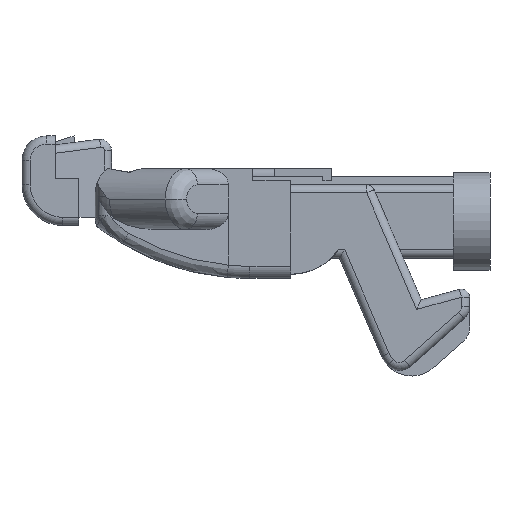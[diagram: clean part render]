
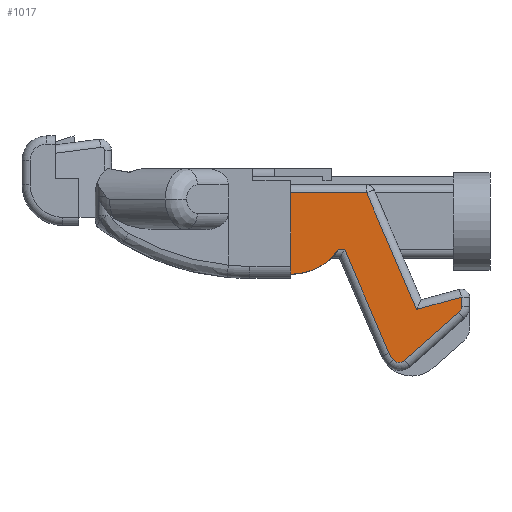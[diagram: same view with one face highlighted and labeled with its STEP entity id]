
A CAD part, left-side view. The second image highlights one B-rep face of the part: STEP entity #1017.
In plain terms, the highlighted planar face has unit normal (-1, 0, 0).
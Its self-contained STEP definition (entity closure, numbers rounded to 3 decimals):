
#71 = DIRECTION ( 'NONE',  ( 0., 0., 1. ) ) ;
#301 = ORIENTED_EDGE ( 'NONE', *, *, #4029, .F. ) ;
#390 = ORIENTED_EDGE ( 'NONE', *, *, #5676, .T. ) ;
#653 = CARTESIAN_POINT ( 'NONE',  ( -12.531, 12.398, -16.183 ) ) ;
#717 = EDGE_LOOP ( 'NONE', ( #4122, #5623, #2382, #1129, #4386, #2226, #4890, #390, #5519, #3901, #1470, #301 ) ) ;
#723 = CARTESIAN_POINT ( 'NONE',  ( -12.531, 24.5, -4.5 ) ) ;
#860 = CARTESIAN_POINT ( 'NONE',  ( -12.531, 3.835, -11.172 ) ) ;
#1001 = CARTESIAN_POINT ( 'NONE',  ( -12.531, 3.5, -10.425 ) ) ;
#1017 = ADVANCED_FACE ( 'NONE', ( #3466 ), #2610, .F. ) ;
#1021 = CARTESIAN_POINT ( 'NONE',  ( -12.531, 24.5, -4.5 ) ) ;
#1066 = EDGE_CURVE ( 'NONE', #5018, #4699, #1535, .T. ) ;
#1129 = ORIENTED_EDGE ( 'NONE', *, *, #1066, .T. ) ;
#1151 = LINE ( 'NONE', #5747, #2962 ) ;
#1216 = CARTESIAN_POINT ( 'NONE',  ( -12.531, 9.641, -15. ) ) ;
#1283 = DIRECTION ( 'NONE',  ( 0., 0.394, 0.919 ) ) ;
#1325 = CARTESIAN_POINT ( 'NONE',  ( -12.531, 17.841, -3.5 ) ) ;
#1348 = EDGE_CURVE ( 'NONE', #4072, #3820, #3921, .T. ) ;
#1470 = ORIENTED_EDGE ( 'NONE', *, *, #5875, .T. ) ;
#1519 = VERTEX_POINT ( 'NONE', #1325 ) ;
#1535 = CIRCLE ( 'NONE', #2309, 3. ) ;
#1585 = LINE ( 'NONE', #5842, #3034 ) ;
#1591 = VECTOR ( 'NONE', #3612, 1000. ) ;
#1626 = VECTOR ( 'NONE', #3030, 1000. ) ;
#1729 = CARTESIAN_POINT ( 'NONE',  ( -12.531, 15.159, 3.5 ) ) ;
#1822 = VERTEX_POINT ( 'NONE', #3750 ) ;
#2005 = EDGE_CURVE ( 'NONE', #4181, #4062, #3737, .T. ) ;
#2034 = DIRECTION ( 'NONE',  ( -1., 0., 0. ) ) ;
#2079 = CARTESIAN_POINT ( 'NONE',  ( -12.531, 3.5, -9.309 ) ) ;
#2115 = DIRECTION ( 'NONE',  ( -1., 0., 0. ) ) ;
#2226 = ORIENTED_EDGE ( 'NONE', *, *, #3554, .T. ) ;
#2309 = AXIS2_PLACEMENT_3D ( 'NONE', #1216, #2034, #3441 ) ;
#2382 = ORIENTED_EDGE ( 'NONE', *, *, #4032, .T. ) ;
#2487 = AXIS2_PLACEMENT_3D ( 'NONE', #723, #3527, #5312 ) ;
#2565 = CIRCLE ( 'NONE', #4217, 1. ) ;
#2610 = PLANE ( 'NONE',  #2487 ) ;
#2643 = AXIS2_PLACEMENT_3D ( 'NONE', #3084, #4040, #4090 ) ;
#2666 = LINE ( 'NONE', #4528, #1591 ) ;
#2777 = CARTESIAN_POINT ( 'NONE',  ( -12.531, 12.398, -16.183 ) ) ;
#2815 = CARTESIAN_POINT ( 'NONE',  ( -12.531, 9.018, -10.81 ) ) ;
#2906 = LINE ( 'NONE', #1021, #5562 ) ;
#2937 = VECTOR ( 'NONE', #4279, 1000. ) ;
#2962 = VECTOR ( 'NONE', #3899, 1000. ) ;
#3016 = CARTESIAN_POINT ( 'NONE',  ( -12.531, 11.883, -16.994 ) ) ;
#3030 = DIRECTION ( 'NONE',  ( 0., 0.965, -0.263 ) ) ;
#3034 = VECTOR ( 'NONE', #4021, 1000. ) ;
#3084 = CARTESIAN_POINT ( 'NONE',  ( -12.531, 11.136, -16.329 ) ) ;
#3145 = AXIS2_PLACEMENT_3D ( 'NONE', #4069, #5425, #4461 ) ;
#3164 = LINE ( 'NONE', #3536, #4683 ) ;
#3441 = DIRECTION ( 'NONE',  ( 0., 0., -1. ) ) ;
#3466 = FACE_OUTER_BOUND ( 'NONE', #717, .T. ) ;
#3527 = DIRECTION ( 'NONE',  ( 1., 0., 0. ) ) ;
#3536 = CARTESIAN_POINT ( 'NONE',  ( -12.531, 15.419, 4.106 ) ) ;
#3554 = EDGE_CURVE ( 'NONE', #1822, #3806, #1585, .T. ) ;
#3612 = DIRECTION ( 'NONE',  ( 0., 0., 1. ) ) ;
#3737 = CIRCLE ( 'NONE', #3145, 7.25 ) ;
#3750 = CARTESIAN_POINT ( 'NONE',  ( -12.531, 10.471, -17.077 ) ) ;
#3793 = EDGE_CURVE ( 'NONE', #4699, #1822, #4399, .T. ) ;
#3806 = VERTEX_POINT ( 'NONE', #860 ) ;
#3820 = VERTEX_POINT ( 'NONE', #2815 ) ;
#3824 = DIRECTION ( 'NONE',  ( 0., -1., 0. ) ) ;
#3899 = DIRECTION ( 'NONE',  ( 0., 1., 0. ) ) ;
#3901 = ORIENTED_EDGE ( 'NONE', *, *, #4868, .T. ) ;
#3921 = LINE ( 'NONE', #5275, #1626 ) ;
#3943 = CARTESIAN_POINT ( 'NONE',  ( -12.531, 18.626, -3.5 ) ) ;
#3997 = EDGE_CURVE ( 'NONE', #4062, #1519, #4816, .T. ) ;
#4021 = DIRECTION ( 'NONE',  ( 0., -0.747, 0.665 ) ) ;
#4029 = EDGE_CURVE ( 'NONE', #4181, #4670, #2906, .T. ) ;
#4032 = EDGE_CURVE ( 'NONE', #1519, #5018, #4787, .T. ) ;
#4040 = DIRECTION ( 'NONE',  ( -1., 0., 0. ) ) ;
#4062 = VERTEX_POINT ( 'NONE', #3943 ) ;
#4069 = CARTESIAN_POINT ( 'NONE',  ( -12.531, 24.5, 0.75 ) ) ;
#4072 = VERTEX_POINT ( 'NONE', #2079 ) ;
#4090 = DIRECTION ( 'NONE',  ( 0., 0., -1. ) ) ;
#4122 = ORIENTED_EDGE ( 'NONE', *, *, #2005, .T. ) ;
#4148 = VERTEX_POINT ( 'NONE', #1729 ) ;
#4181 = VERTEX_POINT ( 'NONE', #4471 ) ;
#4217 = AXIS2_PLACEMENT_3D ( 'NONE', #5776, #2115, #5400 ) ;
#4279 = DIRECTION ( 'NONE',  ( 0., -0.394, -0.919 ) ) ;
#4337 = CARTESIAN_POINT ( 'NONE',  ( -12.531, 18.5, -3.5 ) ) ;
#4386 = ORIENTED_EDGE ( 'NONE', *, *, #3793, .T. ) ;
#4399 = CIRCLE ( 'NONE', #2643, 1. ) ;
#4461 = DIRECTION ( 'NONE',  ( 0., 0., -1. ) ) ;
#4471 = CARTESIAN_POINT ( 'NONE',  ( -12.531, 24.5, -6.5 ) ) ;
#4528 = CARTESIAN_POINT ( 'NONE',  ( -12.531, 3.5, -8. ) ) ;
#4670 = VERTEX_POINT ( 'NONE', #5608 ) ;
#4683 = VECTOR ( 'NONE', #1283, 1000. ) ;
#4699 = VERTEX_POINT ( 'NONE', #3016 ) ;
#4787 = LINE ( 'NONE', #653, #2937 ) ;
#4816 = LINE ( 'NONE', #4337, #5072 ) ;
#4868 = EDGE_CURVE ( 'NONE', #3820, #4148, #3164, .T. ) ;
#4890 = ORIENTED_EDGE ( 'NONE', *, *, #5589, .T. ) ;
#5018 = VERTEX_POINT ( 'NONE', #2777 ) ;
#5072 = VECTOR ( 'NONE', #3824, 1000. ) ;
#5275 = CARTESIAN_POINT ( 'NONE',  ( -12.531, 8.179, -10.582 ) ) ;
#5312 = DIRECTION ( 'NONE',  ( 0., 0., -1. ) ) ;
#5400 = DIRECTION ( 'NONE',  ( 0., 0., -1. ) ) ;
#5425 = DIRECTION ( 'NONE',  ( -1., 0., 0. ) ) ;
#5509 = VERTEX_POINT ( 'NONE', #1001 ) ;
#5519 = ORIENTED_EDGE ( 'NONE', *, *, #1348, .T. ) ;
#5562 = VECTOR ( 'NONE', #71, 1000. ) ;
#5589 = EDGE_CURVE ( 'NONE', #3806, #5509, #2565, .T. ) ;
#5608 = CARTESIAN_POINT ( 'NONE',  ( -12.531, 24.5, 3.5 ) ) ;
#5623 = ORIENTED_EDGE ( 'NONE', *, *, #3997, .T. ) ;
#5676 = EDGE_CURVE ( 'NONE', #5509, #4072, #2666, .T. ) ;
#5747 = CARTESIAN_POINT ( 'NONE',  ( -12.531, 24.5, 3.5 ) ) ;
#5776 = CARTESIAN_POINT ( 'NONE',  ( -12.531, 4.5, -10.425 ) ) ;
#5842 = CARTESIAN_POINT ( 'NONE',  ( -12.531, 12.055, -18.486 ) ) ;
#5875 = EDGE_CURVE ( 'NONE', #4148, #4670, #1151, .T. ) ;
